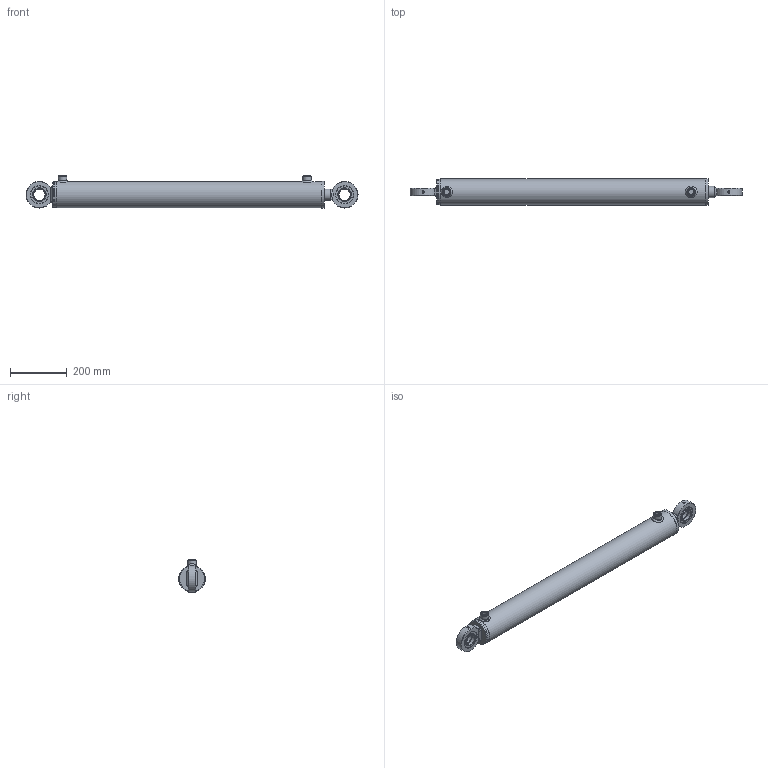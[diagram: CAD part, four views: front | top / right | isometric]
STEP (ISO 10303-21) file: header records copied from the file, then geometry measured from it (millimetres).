
FILE_DESCRIPTION( ( 'Unknown' ), '1' );
FILE_NAME( 'E:/LIBRERIA_3d/CILINDRI/HMC/HMC5400800.stp', 'Unknown', ( 'Unknown' ), ( 'Unknown' ), 'PSStep 17.0.49', 'Unknown', ' ' );
FILE_SCHEMA( ( 'AUTOMOTIVE_DESIGN { 1 0 10303 214 1 1 1 1 }' ) );
Length unit declared in the file: millimetre
Products named in the file (27): STL5600800-oa6; Saldatura d'angolo 1-oa4; FTM5600800-oa5; CBSC220800; CG09508040; CT00080027; HM05400800; Saldatura con preparazione 1-oa2; Saldatura d'angolo 1-oa3; CF00080090; CBS0800000; CDA0002720; APG0800000; SBL4050800; CAGEG09406240; CAGE094062; CGE0400000; Assem1; Saldatura d'angolo 3-oa0; Saldatura d'angolo 4-oa1
Assembly tree (20 placements, depth 4):
  Saldatura d'angolo 1-oa4
  Saldatura d'angolo 1-oa4
  Saldatura d'angolo 1-oa3
  Saldatura d'angolo 1-oa3
  Assem1
    CAGEG09406240  x2
      CAGE094062
      CGE0400000
    HM05400800
      Saldatura con preparazione 1-oa2
      Saldatura con preparazione 1-oa2
      CF00080090
      CBS0800000
      CDA0002720
      APG0800000  x2
      SBL4050800
      CG09508040
        CG09508040
      CT00080027
        CT00080027
      STL5600800-oa6
        FTM5600800-oa5
        CBSC220800
Bounding box: 1168 x 94 x 113 mm (x, y, z)
Volume: 3504628.6 mm3; surface area: 832754.1 mm2
Topology: 24 solids, 24 shells, 408 faces, 900 edges, 489 vertices
Faces by surface type: bspline 158, plane 84, cylinder 78, cone 46, torus 36, sphere 6
Full cylindrical faces by diameter (mm): 2.5 x4, 4.25 x1, 5 x2, 8 x2, 12 x1, 18.631 x2, 19.5 x2, 20.95 x2, 26 x2, 26.4 x1, 27 x5, 30 x2, 33.2 x1, 40 x9, 41 x1, 43 x3, 48.6 x1, 50 x1, 60 x1, 62 x6, 74.16 x2, 75 x1, 78.34 x2, 79.9 x1, 80 x1, 80.3 x1, 80.5 x1, 80.6 x1, 81 x1, 82 x3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
Entity records: 18144 total; most frequent: CARTESIAN_POINT 9122, ORIENTED_EDGE 1092, DIRECTION 920, EDGE_LOOP 573, EDGE_CURVE 546, FACE_OUTER_BOUND 481, AXIS2_PLACEMENT_3D 445, VERTEX_POINT 384
